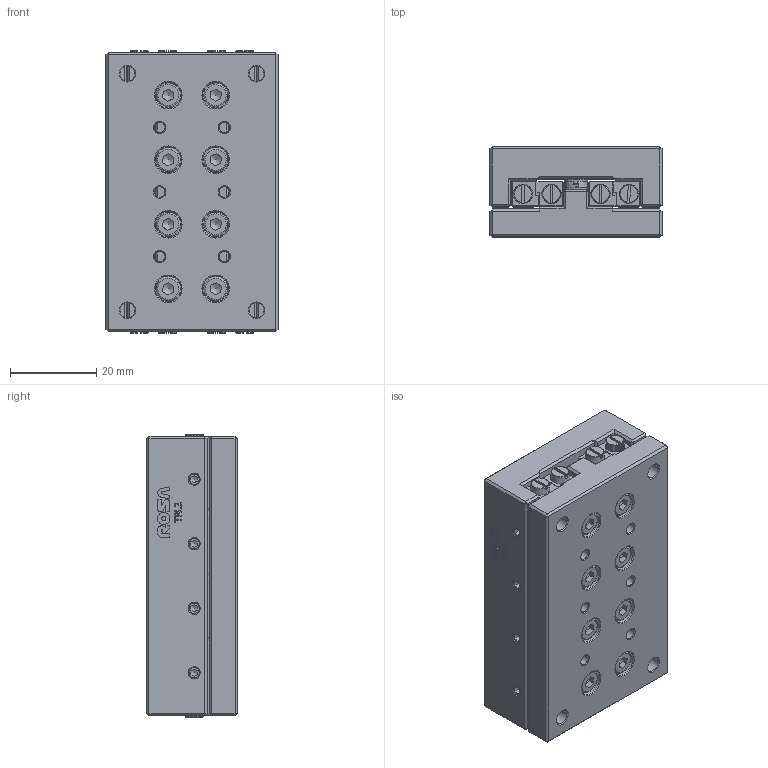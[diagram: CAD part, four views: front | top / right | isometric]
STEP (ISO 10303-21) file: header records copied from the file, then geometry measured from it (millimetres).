
FILE_DESCRIPTION(/* description */ ('Tavola TRL02 L=65 mm'),/* implementation_level */ '2;1');
FILE_NAME(/* name */ 'TRL020065-00.stp',/* time_stamp */ '2024-01-31T08:31:51+01:00',/* author */ ('ufficiotecnico'),/* organization */ (''),/* preprocessor_version */ 'ST-DEVELOPER v20',/* originating_system */ 'Autodesk Inventor 2024',/* authorisation */ '');
FILE_SCHEMA (('AUTOMOTIVE_DESIGN { 1 0 10303 214 3 1 1 }'));
Length unit declared in the file: millimetre
Products named in the file (2): TRL020065-00; TRL020065-00_1
Assembly tree (1 placements, depth 2):
  TRL020065-00
    TRL020065-00_1
Bounding box: 40 x 21 x 65.6 mm (x, y, z)
Volume: 49275.2 mm3; surface area: 22590.9 mm2
Topology: 8 solids, 8 shells, 1581 faces, 4071 edges, 2614 vertices
Faces by surface type: plane 1055, cylinder 189, bspline 156, cone 127, torus 54
Full cylindrical faces by diameter (mm): 0.774 x4, 1.039 x1, 2 x4, 2.128 x4, 2.459 x22, 2.856 x1, 3 x16, 3.5 x4, 4.4 x16, 5.5 x16, 6 x20
Entity records: 49565 total; most frequent: CARTESIAN_POINT 10961, ORIENTED_EDGE 8102, DIRECTION 7237, EDGE_CURVE 4051, LINE 2637, VECTOR 2637, VERTEX_POINT 2614, AXIS2_PLACEMENT_3D 2300
